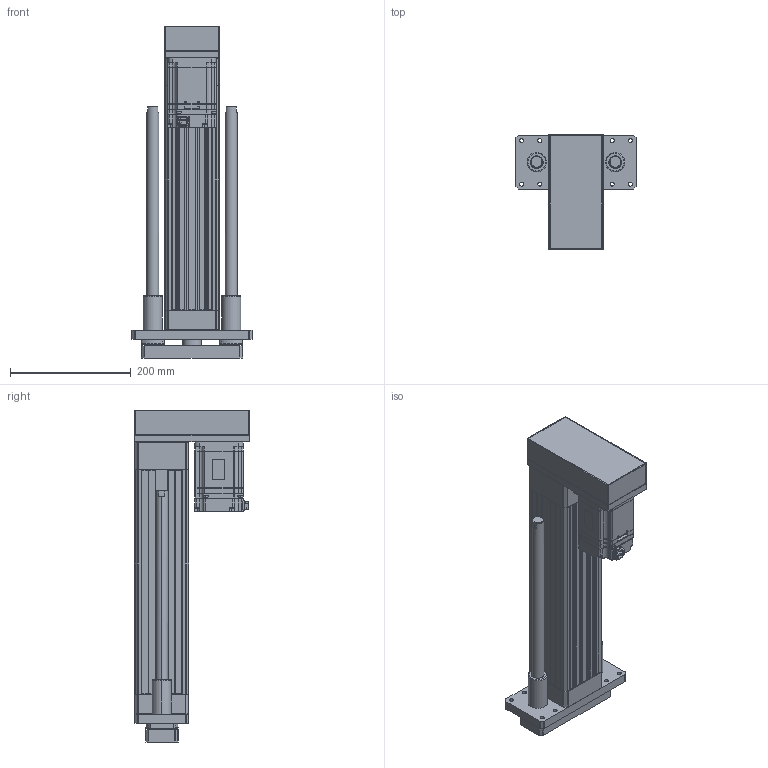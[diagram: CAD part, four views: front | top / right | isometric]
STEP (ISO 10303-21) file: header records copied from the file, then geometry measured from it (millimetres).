
FILE_DESCRIPTION (( 'STEP AP203' ), '1' );
FILE_NAME ('ANS090R-GP250-05(10)(20)-W75.STEP', '2019-03-02T08:56:33', ( 'user' ), ( '' ), 'SwSTEP 2.0', 'SolidWorks 2013', '' );
FILE_SCHEMA (( 'CONFIG_CONTROL_DESIGN' ));
Length unit declared in the file: millimetre
Products named in the file (4): SGMJV_08A_A21; ANS090 ROD ST250-G; ANS090R-GP250-05(10)(20)-W75; ANS090R GP250 VER2
Assembly tree (3 placements, depth 2):
  ANS090R-GP250-05(10)(20)-W75
    ANS090R GP250 VER2
    SGMJV_08A_A21
    ANS090 ROD ST250-G
Bounding box: 200 x 190 x 550 mm (x, y, z)
Volume: 3602180.6 mm3; surface area: 685434.2 mm2
Topology: 3 solids, 7 shells, 1393 faces, 3620 edges, 2322 vertices
Faces by surface type: plane 779, cylinder 454, cone 144, sphere 8, torus 4, bspline 4
Entity records: 43156 total; most frequent: CARTESIAN_POINT 7975, DIRECTION 7322, ORIENTED_EDGE 7200, EDGE_CURVE 3600, AXIS2_PLACEMENT_3D 2441, LINE 2440, VECTOR 2440, VERTEX_POINT 2322
